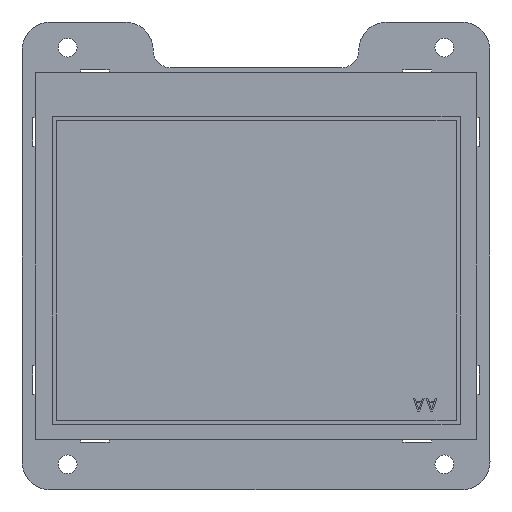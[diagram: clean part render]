
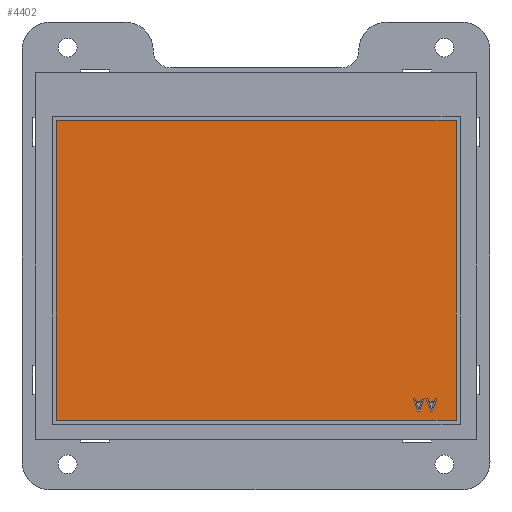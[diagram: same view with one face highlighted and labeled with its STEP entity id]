
A CAD part, front view. The second image highlights one B-rep face of the part: STEP entity #4402.
In plain terms, the highlighted planar face has unit normal (0, -1, 0) as drawn and (0, 1, 0) by its records, which use the part's own axes.
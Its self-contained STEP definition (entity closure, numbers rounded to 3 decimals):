
#3829=DIRECTION('',(0.,0.,1.));
#3830=VECTOR('',#3829,52.56);
#3831=CARTESIAN_POINT('',(-35.05,3.,-28.8));
#3832=LINE('',#3831,#3830);
#3833=DIRECTION('',(-1.,0.,0.));
#3834=VECTOR('',#3833,70.08);
#3835=CARTESIAN_POINT('',(35.03,3.,-28.8));
#3836=LINE('',#3835,#3834);
#3837=DIRECTION('',(0.,0.,-1.));
#3838=VECTOR('',#3837,52.56);
#3839=CARTESIAN_POINT('',(35.03,3.,23.76));
#3840=LINE('',#3839,#3838);
#3841=DIRECTION('',(1.,0.,0.));
#3842=VECTOR('',#3841,70.08);
#3843=CARTESIAN_POINT('',(-35.05,3.,23.76));
#3844=LINE('',#3843,#3842);
#3845=DIRECTION('',(0.316,0.,0.949));
#3846=VECTOR('',#3845,2.372);
#3847=CARTESIAN_POINT('',(-30.569,3.,-27.173));
#3848=LINE('',#3847,#3846);
#3849=DIRECTION('',(1.,0.,0.));
#3850=VECTOR('',#3849,0.375);
#3851=CARTESIAN_POINT('',(-30.944,3.,-27.173));
#3852=LINE('',#3851,#3850);
#3853=DIRECTION('',(0.316,0.,-0.949));
#3854=VECTOR('',#3853,2.372);
#3855=CARTESIAN_POINT('',(-31.694,3.,-24.923));
#3856=LINE('',#3855,#3854);
#3857=DIRECTION('',(-1.,0.,0.));
#3858=VECTOR('',#3857,0.281);
#3859=CARTESIAN_POINT('',(-31.413,3.,-24.923));
#3860=LINE('',#3859,#3858);
#3861=DIRECTION('',(-0.31,0.,0.951));
#3862=VECTOR('',#3861,0.604);
#3863=CARTESIAN_POINT('',(-31.226,3.,-25.498));
#3864=LINE('',#3863,#3862);
#3865=DIRECTION('',(-1.,0.,0.));
#3866=VECTOR('',#3865,0.938);
#3867=CARTESIAN_POINT('',(-30.288,3.,-25.498));
#3868=LINE('',#3867,#3866);
#3869=DIRECTION('',(-0.31,0.,-0.951));
#3870=VECTOR('',#3869,0.604);
#3871=CARTESIAN_POINT('',(-30.101,3.,-24.923));
#3872=LINE('',#3871,#3870);
#3873=DIRECTION('',(-1.,0.,0.));
#3874=VECTOR('',#3873,0.281);
#3875=CARTESIAN_POINT('',(-29.819,3.,-24.923));
#3876=LINE('',#3875,#3874);
#3889=DIRECTION('',(0.316,0.,0.949));
#3890=VECTOR('',#3889,2.372);
#3891=CARTESIAN_POINT('',(-28.319,3.,-27.173));
#3892=LINE('',#3891,#3890);
#3893=DIRECTION('',(1.,0.,0.));
#3894=VECTOR('',#3893,0.375);
#3895=CARTESIAN_POINT('',(-28.694,3.,-27.173));
#3896=LINE('',#3895,#3894);
#3897=DIRECTION('',(0.316,0.,-0.949));
#3898=VECTOR('',#3897,2.372);
#3899=CARTESIAN_POINT('',(-29.444,3.,-24.923));
#3900=LINE('',#3899,#3898);
#3901=DIRECTION('',(-1.,0.,0.));
#3902=VECTOR('',#3901,0.281);
#3903=CARTESIAN_POINT('',(-29.163,3.,-24.923));
#3904=LINE('',#3903,#3902);
#3905=DIRECTION('',(-0.31,0.,0.951));
#3906=VECTOR('',#3905,0.604);
#3907=CARTESIAN_POINT('',(-28.976,3.,-25.498));
#3908=LINE('',#3907,#3906);
#3909=DIRECTION('',(-1.,0.,0.));
#3910=VECTOR('',#3909,0.937);
#3911=CARTESIAN_POINT('',(-28.038,3.,-25.498));
#3912=LINE('',#3911,#3910);
#3913=DIRECTION('',(-0.31,0.,-0.951));
#3914=VECTOR('',#3913,0.604);
#3915=CARTESIAN_POINT('',(-27.851,3.,-24.923));
#3916=LINE('',#3915,#3914);
#3917=DIRECTION('',(-1.,0.,0.));
#3918=VECTOR('',#3917,0.281);
#3919=CARTESIAN_POINT('',(-27.569,3.,-24.923));
#3920=LINE('',#3919,#3918);
#4037=CARTESIAN_POINT('',(-35.05,3.,-28.8));
#4038=CARTESIAN_POINT('',(-35.05,3.,23.76));
#4039=VERTEX_POINT('',#4037);
#4040=VERTEX_POINT('',#4038);
#4041=CARTESIAN_POINT('',(35.03,3.,23.76));
#4042=VERTEX_POINT('',#4041);
#4043=CARTESIAN_POINT('',(35.03,3.,-28.8));
#4044=VERTEX_POINT('',#4043);
#4053=CARTESIAN_POINT('',(-30.569,3.,-27.173));
#4054=CARTESIAN_POINT('',(-29.819,3.,-24.923));
#4055=VERTEX_POINT('',#4053);
#4056=VERTEX_POINT('',#4054);
#4057=CARTESIAN_POINT('',(-30.101,3.,-24.923));
#4058=VERTEX_POINT('',#4057);
#4059=CARTESIAN_POINT('',(-30.288,3.,-25.498));
#4060=VERTEX_POINT('',#4059);
#4061=CARTESIAN_POINT('',(-31.226,3.,-25.498));
#4062=VERTEX_POINT('',#4061);
#4063=CARTESIAN_POINT('',(-31.413,3.,-24.923));
#4064=VERTEX_POINT('',#4063);
#4065=CARTESIAN_POINT('',(-31.694,3.,-24.923));
#4066=VERTEX_POINT('',#4065);
#4067=CARTESIAN_POINT('',(-30.944,3.,-27.173));
#4068=VERTEX_POINT('',#4067);
#4075=CARTESIAN_POINT('',(-28.319,3.,-27.173));
#4076=CARTESIAN_POINT('',(-27.569,3.,-24.923));
#4077=VERTEX_POINT('',#4075);
#4078=VERTEX_POINT('',#4076);
#4079=CARTESIAN_POINT('',(-27.851,3.,-24.923));
#4080=VERTEX_POINT('',#4079);
#4081=CARTESIAN_POINT('',(-28.038,3.,-25.498));
#4082=VERTEX_POINT('',#4081);
#4083=CARTESIAN_POINT('',(-28.976,3.,-25.498));
#4084=VERTEX_POINT('',#4083);
#4085=CARTESIAN_POINT('',(-29.163,3.,-24.923));
#4086=VERTEX_POINT('',#4085);
#4087=CARTESIAN_POINT('',(-29.444,3.,-24.923));
#4088=VERTEX_POINT('',#4087);
#4089=CARTESIAN_POINT('',(-28.694,3.,-27.173));
#4090=VERTEX_POINT('',#4089);
#4355=CARTESIAN_POINT('',(0.,3.,0.));
#4356=DIRECTION('',(0.,1.,0.));
#4357=DIRECTION('',(1.,0.,0.));
#4358=AXIS2_PLACEMENT_3D('',#4355,#4356,#4357);
#4359=PLANE('',#4358);
#4360=ORIENTED_EDGE('',*,*,#4307,.F.);
#4361=ORIENTED_EDGE('',*,*,#4322,.F.);
#4362=ORIENTED_EDGE('',*,*,#4336,.F.);
#4363=ORIENTED_EDGE('',*,*,#4349,.F.);
#4364=EDGE_LOOP('',(#4360,#4361,#4362,#4363));
#4365=FACE_OUTER_BOUND('',#4364,.F.);
#4367=ORIENTED_EDGE('',*,*,#4366,.F.);
#4369=ORIENTED_EDGE('',*,*,#4368,.F.);
#4371=ORIENTED_EDGE('',*,*,#4370,.F.);
#4373=ORIENTED_EDGE('',*,*,#4372,.F.);
#4375=ORIENTED_EDGE('',*,*,#4374,.F.);
#4377=ORIENTED_EDGE('',*,*,#4376,.F.);
#4379=ORIENTED_EDGE('',*,*,#4378,.F.);
#4381=ORIENTED_EDGE('',*,*,#4380,.F.);
#4382=EDGE_LOOP('',(#4367,#4369,#4371,#4373,#4375,#4377,#4379,#4381));
#4383=FACE_BOUND('',#4382,.F.);
#4385=ORIENTED_EDGE('',*,*,#4384,.F.);
#4387=ORIENTED_EDGE('',*,*,#4386,.F.);
#4389=ORIENTED_EDGE('',*,*,#4388,.F.);
#4391=ORIENTED_EDGE('',*,*,#4390,.F.);
#4393=ORIENTED_EDGE('',*,*,#4392,.F.);
#4395=ORIENTED_EDGE('',*,*,#4394,.F.);
#4397=ORIENTED_EDGE('',*,*,#4396,.F.);
#4399=ORIENTED_EDGE('',*,*,#4398,.F.);
#4400=EDGE_LOOP('',(#4385,#4387,#4389,#4391,#4393,#4395,#4397,#4399));
#4401=FACE_BOUND('',#4400,.F.);
#4307=EDGE_CURVE('',#4039,#4040,#3832,.T.);
#4322=EDGE_CURVE('',#4044,#4039,#3836,.T.);
#4336=EDGE_CURVE('',#4042,#4044,#3840,.T.);
#4349=EDGE_CURVE('',#4040,#4042,#3844,.T.);
#4366=EDGE_CURVE('',#4055,#4056,#3848,.T.);
#4368=EDGE_CURVE('',#4068,#4055,#3852,.T.);
#4370=EDGE_CURVE('',#4066,#4068,#3856,.T.);
#4372=EDGE_CURVE('',#4064,#4066,#3860,.T.);
#4374=EDGE_CURVE('',#4062,#4064,#3864,.T.);
#4376=EDGE_CURVE('',#4060,#4062,#3868,.T.);
#4378=EDGE_CURVE('',#4058,#4060,#3872,.T.);
#4380=EDGE_CURVE('',#4056,#4058,#3876,.T.);
#4384=EDGE_CURVE('',#4077,#4078,#3892,.T.);
#4386=EDGE_CURVE('',#4090,#4077,#3896,.T.);
#4388=EDGE_CURVE('',#4088,#4090,#3900,.T.);
#4390=EDGE_CURVE('',#4086,#4088,#3904,.T.);
#4392=EDGE_CURVE('',#4084,#4086,#3908,.T.);
#4394=EDGE_CURVE('',#4082,#4084,#3912,.T.);
#4396=EDGE_CURVE('',#4080,#4082,#3916,.T.);
#4398=EDGE_CURVE('',#4078,#4080,#3920,.T.);
#4402=ADVANCED_FACE('',(#4365,#4383,#4401),#4359,.T.);
